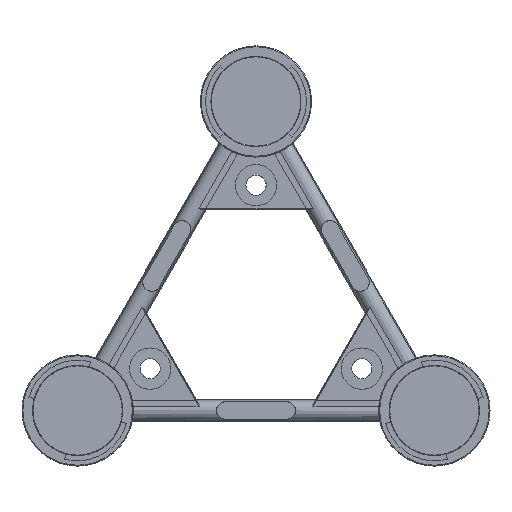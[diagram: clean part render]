
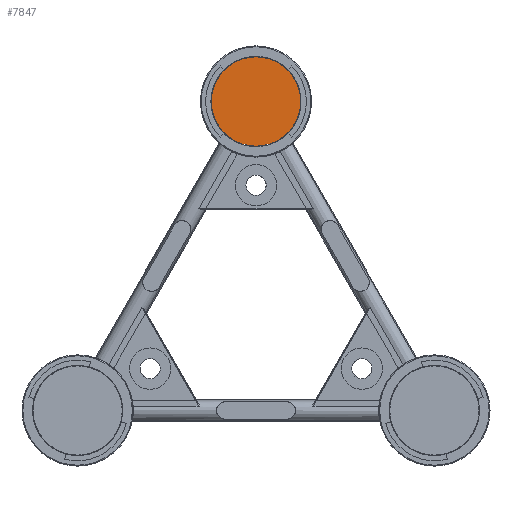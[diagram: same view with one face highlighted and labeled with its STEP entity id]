
A CAD part, left-side view. The second image highlights one B-rep face of the part: STEP entity #7847.
In plain terms, the highlighted planar face has unit normal (-1, 0, 0).
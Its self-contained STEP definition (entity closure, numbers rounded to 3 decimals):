
#877=CIRCLE('',#8773,25.4);
#1532=FACE_OUTER_BOUND('',#2254,.T.);
#2254=EDGE_LOOP('',(#6262));
#3610=VERTEX_POINT('',#14278);
#4474=EDGE_CURVE('',#3610,#3610,#877,.T.);
#6262=ORIENTED_EDGE('',*,*,#4474,.F.);
#6800=PLANE('',#8776);
#7847=ADVANCED_FACE('',(#1532),#6800,.T.);
#8773=AXIS2_PLACEMENT_3D('',#14279,#10951,#10952);
#8776=AXIS2_PLACEMENT_3D('',#14282,#10957,#10958);
#10951=DIRECTION('center_axis',(1.,0.,0.));
#10952=DIRECTION('ref_axis',(0.,-1.,0.));
#10957=DIRECTION('center_axis',(-1.,0.,0.));
#10958=DIRECTION('ref_axis',(0.,-1.,0.));
#14278=CARTESIAN_POINT('',(0.,126.9,175.803));
#14279=CARTESIAN_POINT('Origin',(0.,101.5,
175.803));
#14282=CARTESIAN_POINT('Origin',(0.,101.5,
175.803));
